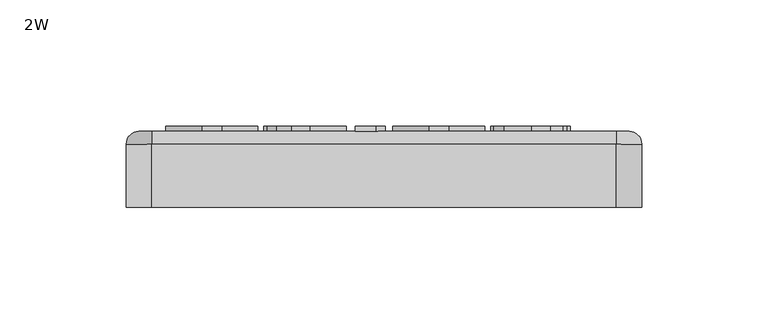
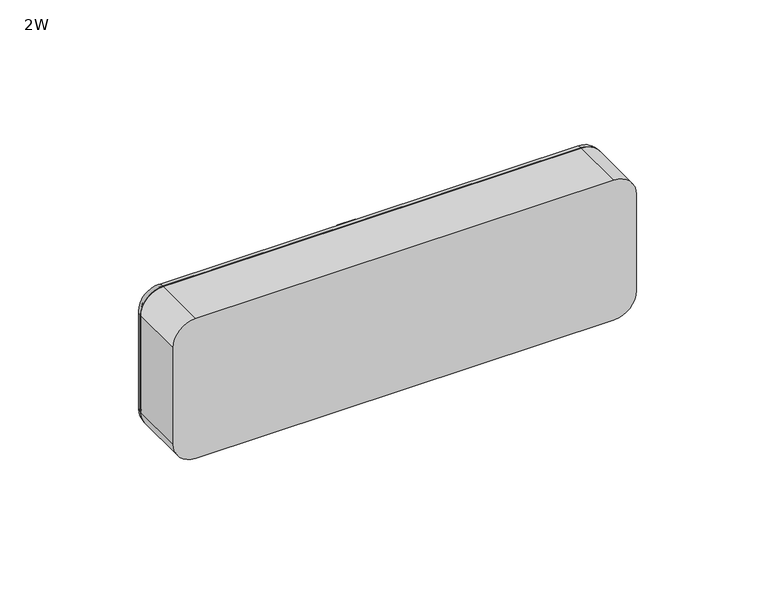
"""IFC4 building model written with IfcOpenShell, lengths in millimetres: light fixture geometry, Luminária seta indicativa parede vinculada : 2W."""

from ifc_helpers import new_model, si_unit, point, frame, frame_2d, origin, place, context, project, spatial, polyline, circle_curve, ellipse_curve, trimmed, segment, composite_curve, outline, extrude, source, transform, mapped, element, save
from ifc_brep_helpers import plane_surface, cylinder_surface, revolved_surface, advanced_brep


def light_fixture_2w_9bd4df86(model_context):
    return source(origin(), model_context, "Body", "SolidModel", [
        extrude(outline(polyline([(2523.8949331, 73.8063579), (2524.5103277, 66.4216232), (2518.9140834, 63.5369612), (2517.125593, 57.6810973), (2518.7073493, 51.7867713), (2522.4045244, 49.8059701), (2524.7170618, 50.6280988), (2526.3757425, 53.507953), (2528.0199998, 59.9119026), (2531.798907, 68.9312791), (2539.5778788, 72.5755688), (2545.0971988, 70.9024648), (2549.0107236, 66.0754637), (2550.3568992, 58.4695716), (2547.0010757, 47.5126638), (2538.049008, 43.6520245), (2538.049008, 51.0367592), (2542.2942689, 53.2627567), (2543.587559, 58.3830318), (2542.2125368, 63.9023517), (2539.847114, 65.1908341), (2537.5297688, 64.0177382), (2535.0056896, 56.7820443), (2532.2748762, 48.2867148), (2528.3661592, 43.9789529), (2522.2410603, 42.4212354), (2516.0486525, 44.2626113), (2511.7601217, 49.474234), (2510.3562528, 57.8734081), (2513.8130395, 69.1235899), (2523.8949331, 73.8063579)])), frame((0.0, 30.0, 0.0), z_axis=(0.0, 1.0, 0.0), x_axis=(0.0, 0.0, 1.0)), (0.0, 0.0, 1.0), 2.0),
        extrude(outline(polyline([(2510.9716474, 3.6513782), (2510.9716474, 11.411119), (2519.5871712, 14.4496296), (2519.5871712, 29.094097), (2510.9716474, 32.0941455), (2510.9716474, 39.9596572), (2549.7415046, 25.8055823), (2549.7415046, 17.9400706), (2510.9716474, 3.6513782)]), holes=[polyline([(2526.3565114, 16.8150524), (2540.5105862, 21.8055177), (2526.3565114, 26.7286741), (2526.3565114, 16.8150524)])]), frame((0.0, 30.0, 0.0), z_axis=(0.0, 1.0, 0.0), x_axis=(0.0, 0.0, 1.0)), (0.0, 0.0, 1.0), 2.0),
        extrude(outline(polyline([(-7.4257239, 32.0), (-0.0409892, 32.0), (-0.0409892, 30.0), (-7.4257239, 30.0), (-7.4257239, 32.0)])), frame((0.0, 0.0, 2510.9716474), z_axis=(0.0, 0.0, 1.0), x_axis=(1.0, 0.0, 0.0)), (0.0, 0.0, 1.0), 38.7698572),
        extrude(outline(polyline([(2552.8184774, 0.5744054), (2560.8186067, -3.117962), (2560.8186067, -11.1180912), (2552.8184774, -3.7333565), (2552.8184774, 0.5744054)])), frame((0.0, 30.0, 0.0), z_axis=(0.0, 1.0, 0.0), x_axis=(0.0, 0.0, 1.0)), (0.0, 0.0, 1.0), 2.0),
        extrude(outline(polyline([(2549.7415046, -14.8104586), (2549.7415046, -29.1664598), (2549.001108, -36.5704255), (2545.4289349, -42.4359049), (2539.1499873, -46.1523111), (2529.9815699, -47.4263702), (2521.7314366, -46.2340432), (2514.8851722, -42.0608989), (2511.7889683, -36.5415789), (2510.9716474, -29.5895435), (2510.9716474, -14.8104586), (2549.7415046, -14.8104586)]), holes=[polyline([(2542.9721645, -22.1951933), (2517.7409876, -22.1951933), (2517.7409876, -28.4837564), (2518.1063781, -33.5799926), (2519.6881344, -36.979086), (2523.3660784, -39.1858524), (2530.3469605, -40.0416355), (2537.1259162, -39.1858524), (2540.8182835, -36.7963907), (2542.6067739, -32.8972893), (2542.9721645, -25.983716), (2542.9721645, -22.1951933)])]), frame((0.0, 30.0, 0.0), z_axis=(0.0, 1.0, 0.0), x_axis=(0.0, 0.0, 1.0)), (0.0, 0.0, 1.0), 2.0),
        extrude(outline(polyline([(2510.9716474, -86.1962274), (2510.9716474, -78.4364866), (2519.5871712, -75.397976), (2519.5871712, -60.7535086), (2510.9716474, -57.7534601), (2510.9716474, -49.8879484), (2549.7415046, -64.0420233), (2549.7415046, -71.907535), (2510.9716474, -86.1962274)]), holes=[polyline([(2526.3565114, -73.0325531), (2540.5105862, -68.0420879), (2526.3565114, -63.1189314), (2526.3565114, -73.0325531)])]), frame((0.0, 30.0, 0.0), z_axis=(0.0, 1.0, 0.0), x_axis=(0.0, 0.0, 1.0)), (0.0, 0.0, 1.0), 2.0),
        extrude(outline(polyline([(2560.0, 95.1754319), (2560.0, 85.1754319), (2505.0, 85.1754319), (2505.0, 95.1754319), (2560.0, 95.1754319)]), holes=[polyline([(2559.0, 94.1754319), (2551.0, 94.1754319), (2551.0, 86.1754319), (2559.0, 86.1754319), (2559.0, 94.1754319)]), polyline([(2550.0, 86.1754319), (2550.0, 94.1754319), (2542.0, 94.1754319), (2542.0, 86.1754319), (2550.0, 86.1754319)]), polyline([(2541.0, 86.1754319), (2541.0, 94.1754319), (2533.0, 94.1754319), (2533.0, 86.1754319), (2541.0, 86.1754319)]), polyline([(2532.0, 86.1754319), (2532.0, 94.1754319), (2524.0, 94.1754319), (2524.0, 86.1754319), (2532.0, 86.1754319)]), polyline([(2523.0, 86.1754319), (2523.0, 94.1754319), (2515.0, 94.1754319), (2515.0, 86.1754319), (2523.0, 86.1754319)]), polyline([(2514.0, 86.1754319), (2514.0, 94.1754319), (2506.0, 94.1754319), (2506.0, 86.1754319), (2514.0, 86.1754319)])]), frame((0.0, 25.0, 0.0), z_axis=(0.0, 1.0, 0.0), x_axis=(0.0, 0.0, 1.0)), (0.0, 0.0, 1.0), 2.0),
        extrude(outline(polyline([(2560.0, 85.1754319), (2560.0, 75.1754319), (2505.0, 75.1754319), (2505.0, 85.1754319), (2560.0, 85.1754319)]), holes=[polyline([(2559.0, 84.1754319), (2551.0, 84.1754319), (2551.0, 76.1754319), (2559.0, 76.1754319), (2559.0, 84.1754319)]), polyline([(2550.0, 76.1754319), (2550.0, 84.1754319), (2542.0, 84.1754319), (2542.0, 76.1754319), (2550.0, 76.1754319)]), polyline([(2541.0, 76.1754319), (2541.0, 84.1754319), (2533.0, 84.1754319), (2533.0, 76.1754319), (2541.0, 76.1754319)]), polyline([(2532.0, 76.1754319), (2532.0, 84.1754319), (2524.0, 84.1754319), (2524.0, 76.1754319), (2532.0, 76.1754319)]), polyline([(2523.0, 76.1754319), (2523.0, 84.1754319), (2515.0, 84.1754319), (2515.0, 76.1754319), (2523.0, 76.1754319)]), polyline([(2514.0, 76.1754319), (2514.0, 84.1754319), (2506.0, 84.1754319), (2506.0, 76.1754319), (2514.0, 76.1754319)])]), frame((0.0, 25.0, 0.0), z_axis=(0.0, 1.0, 0.0), x_axis=(0.0, 0.0, 1.0)), (0.0, 0.0, 1.0), 2.0),
        extrude(outline(polyline([(2560.0, 75.1754319), (2560.0, 65.1754319), (2505.0, 65.1754319), (2505.0, 75.1754319), (2560.0, 75.1754319)]), holes=[polyline([(2559.0, 74.1754319), (2551.0, 74.1754319), (2551.0, 66.1754319), (2559.0, 66.1754319), (2559.0, 74.1754319)]), polyline([(2550.0, 66.1754319), (2550.0, 74.1754319), (2542.0, 74.1754319), (2542.0, 66.1754319), (2550.0, 66.1754319)]), polyline([(2541.0, 66.1754319), (2541.0, 74.1754319), (2533.0, 74.1754319), (2533.0, 66.1754319), (2541.0, 66.1754319)]), polyline([(2532.0, 66.1754319), (2532.0, 74.1754319), (2524.0, 74.1754319), (2524.0, 66.1754319), (2532.0, 66.1754319)]), polyline([(2523.0, 66.1754319), (2523.0, 74.1754319), (2515.0, 74.1754319), (2515.0, 66.1754319), (2523.0, 66.1754319)]), polyline([(2514.0, 66.1754319), (2514.0, 74.1754319), (2506.0, 74.1754319), (2506.0, 66.1754319), (2514.0, 66.1754319)])]), frame((0.0, 25.0, 0.0), z_axis=(0.0, 1.0, 0.0), x_axis=(0.0, 0.0, 1.0)), (0.0, 0.0, 1.0), 2.0),
        extrude(outline(polyline([(2560.0, 65.1754319), (2560.0, 55.1754319), (2505.0, 55.1754319), (2505.0, 65.1754319), (2560.0, 65.1754319)]), holes=[polyline([(2559.0, 64.1754319), (2551.0, 64.1754319), (2551.0, 56.1754319), (2559.0, 56.1754319), (2559.0, 64.1754319)]), polyline([(2550.0, 56.1754319), (2550.0, 64.1754319), (2542.0, 64.1754319), (2542.0, 56.1754319), (2550.0, 56.1754319)]), polyline([(2541.0, 56.1754319), (2541.0, 64.1754319), (2533.0, 64.1754319), (2533.0, 56.1754319), (2541.0, 56.1754319)]), polyline([(2532.0, 56.1754319), (2532.0, 64.1754319), (2524.0, 64.1754319), (2524.0, 56.1754319), (2532.0, 56.1754319)]), polyline([(2523.0, 56.1754319), (2523.0, 64.1754319), (2515.0, 64.1754319), (2515.0, 56.1754319), (2523.0, 56.1754319)]), polyline([(2514.0, 56.1754319), (2514.0, 64.1754319), (2506.0, 64.1754319), (2506.0, 56.1754319), (2514.0, 56.1754319)])]), frame((0.0, 25.0, 0.0), z_axis=(0.0, 1.0, 0.0), x_axis=(0.0, 0.0, 1.0)), (0.0, 0.0, 1.0), 2.0),
        extrude(outline(polyline([(2560.0, 55.1754319), (2560.0, 45.1754319), (2505.0, 45.1754319), (2505.0, 55.1754319), (2560.0, 55.1754319)]), holes=[polyline([(2559.0, 54.1754319), (2551.0, 54.1754319), (2551.0, 46.1754319), (2559.0, 46.1754319), (2559.0, 54.1754319)]), polyline([(2550.0, 46.1754319), (2550.0, 54.1754319), (2542.0, 54.1754319), (2542.0, 46.1754319), (2550.0, 46.1754319)]), polyline([(2541.0, 46.1754319), (2541.0, 54.1754319), (2533.0, 54.1754319), (2533.0, 46.1754319), (2541.0, 46.1754319)]), polyline([(2532.0, 46.1754319), (2532.0, 54.1754319), (2524.0, 54.1754319), (2524.0, 46.1754319), (2532.0, 46.1754319)]), polyline([(2523.0, 46.1754319), (2523.0, 54.1754319), (2515.0, 54.1754319), (2515.0, 46.1754319), (2523.0, 46.1754319)]), polyline([(2514.0, 46.1754319), (2514.0, 54.1754319), (2506.0, 54.1754319), (2506.0, 46.1754319), (2514.0, 46.1754319)])]), frame((0.0, 25.0, 0.0), z_axis=(0.0, 1.0, 0.0), x_axis=(0.0, 0.0, 1.0)), (0.0, 0.0, 1.0), 2.0),
        extrude(outline(polyline([(2560.0, 45.1754319), (2560.0, 35.1754319), (2505.0, 35.1754319), (2505.0, 45.1754319), (2560.0, 45.1754319)]), holes=[polyline([(2559.0, 44.1754319), (2551.0, 44.1754319), (2551.0, 36.1754319), (2559.0, 36.1754319), (2559.0, 44.1754319)]), polyline([(2550.0, 36.1754319), (2550.0, 44.1754319), (2542.0, 44.1754319), (2542.0, 36.1754319), (2550.0, 36.1754319)]), polyline([(2541.0, 36.1754319), (2541.0, 44.1754319), (2533.0, 44.1754319), (2533.0, 36.1754319), (2541.0, 36.1754319)]), polyline([(2532.0, 36.1754319), (2532.0, 44.1754319), (2524.0, 44.1754319), (2524.0, 36.1754319), (2532.0, 36.1754319)]), polyline([(2523.0, 36.1754319), (2523.0, 44.1754319), (2515.0, 44.1754319), (2515.0, 36.1754319), (2523.0, 36.1754319)]), polyline([(2514.0, 36.1754319), (2514.0, 44.1754319), (2506.0, 44.1754319), (2506.0, 36.1754319), (2514.0, 36.1754319)])]), frame((0.0, 25.0, 0.0), z_axis=(0.0, 1.0, 0.0), x_axis=(0.0, 0.0, 1.0)), (0.0, 0.0, 1.0), 2.0),
        extrude(outline(polyline([(2560.0, 35.1754319), (2560.0, 25.1754319), (2505.0, 25.1754319), (2505.0, 35.1754319), (2560.0, 35.1754319)]), holes=[polyline([(2559.0, 34.1754319), (2551.0, 34.1754319), (2551.0, 26.1754319), (2559.0, 26.1754319), (2559.0, 34.1754319)]), polyline([(2550.0, 26.1754319), (2550.0, 34.1754319), (2542.0, 34.1754319), (2542.0, 26.1754319), (2550.0, 26.1754319)]), polyline([(2541.0, 26.1754319), (2541.0, 34.1754319), (2533.0, 34.1754319), (2533.0, 26.1754319), (2541.0, 26.1754319)]), polyline([(2532.0, 26.1754319), (2532.0, 34.1754319), (2524.0, 34.1754319), (2524.0, 26.1754319), (2532.0, 26.1754319)]), polyline([(2523.0, 26.1754319), (2523.0, 34.1754319), (2515.0, 34.1754319), (2515.0, 26.1754319), (2523.0, 26.1754319)]), polyline([(2514.0, 26.1754319), (2514.0, 34.1754319), (2506.0, 34.1754319), (2506.0, 26.1754319), (2514.0, 26.1754319)])]), frame((0.0, 25.0, 0.0), z_axis=(0.0, 1.0, 0.0), x_axis=(0.0, 0.0, 1.0)), (0.0, 0.0, 1.0), 2.0),
        extrude(outline(polyline([(2560.0, 25.1754319), (2560.0, 15.1754319), (2505.0, 15.1754319), (2505.0, 25.1754319), (2560.0, 25.1754319)]), holes=[polyline([(2559.0, 24.1754319), (2551.0, 24.1754319), (2551.0, 16.1754319), (2559.0, 16.1754319), (2559.0, 24.1754319)]), polyline([(2550.0, 16.1754319), (2550.0, 24.1754319), (2542.0, 24.1754319), (2542.0, 16.1754319), (2550.0, 16.1754319)]), polyline([(2541.0, 16.1754319), (2541.0, 24.1754319), (2533.0, 24.1754319), (2533.0, 16.1754319), (2541.0, 16.1754319)]), polyline([(2532.0, 16.1754319), (2532.0, 24.1754319), (2524.0, 24.1754319), (2524.0, 16.1754319), (2532.0, 16.1754319)]), polyline([(2523.0, 16.1754319), (2523.0, 24.1754319), (2515.0, 24.1754319), (2515.0, 16.1754319), (2523.0, 16.1754319)]), polyline([(2514.0, 16.1754319), (2514.0, 24.1754319), (2506.0, 24.1754319), (2506.0, 16.1754319), (2514.0, 16.1754319)])]), frame((0.0, 25.0, 0.0), z_axis=(0.0, 1.0, 0.0), x_axis=(0.0, 0.0, 1.0)), (0.0, 0.0, 1.0), 2.0),
        extrude(outline(polyline([(2560.0, 15.1754319), (2560.0, 5.1754319), (2505.0, 5.1754319), (2505.0, 15.1754319), (2560.0, 15.1754319)]), holes=[polyline([(2559.0, 14.1754319), (2551.0, 14.1754319), (2551.0, 6.1754319), (2559.0, 6.1754319), (2559.0, 14.1754319)]), polyline([(2550.0, 6.1754319), (2550.0, 14.1754319), (2542.0, 14.1754319), (2542.0, 6.1754319), (2550.0, 6.1754319)]), polyline([(2541.0, 6.1754319), (2541.0, 14.1754319), (2533.0, 14.1754319), (2533.0, 6.1754319), (2541.0, 6.1754319)]), polyline([(2532.0, 6.1754319), (2532.0, 14.1754319), (2524.0, 14.1754319), (2524.0, 6.1754319), (2532.0, 6.1754319)]), polyline([(2523.0, 6.1754319), (2523.0, 14.1754319), (2515.0, 14.1754319), (2515.0, 6.1754319), (2523.0, 6.1754319)]), polyline([(2514.0, 6.1754319), (2514.0, 14.1754319), (2506.0, 14.1754319), (2506.0, 6.1754319), (2514.0, 6.1754319)])]), frame((0.0, 25.0, 0.0), z_axis=(0.0, 1.0, 0.0), x_axis=(0.0, 0.0, 1.0)), (0.0, 0.0, 1.0), 2.0),
        extrude(outline(polyline([(2560.0, 5.1754319), (2560.0, -4.8245681), (2505.0, -4.8245681), (2505.0, 5.1754319), (2560.0, 5.1754319)]), holes=[polyline([(2559.0, 4.1754319), (2551.0, 4.1754319), (2551.0, -3.8245681), (2559.0, -3.8245681), (2559.0, 4.1754319)]), polyline([(2550.0, -3.8245681), (2550.0, 4.1754319), (2542.0, 4.1754319), (2542.0, -3.8245681), (2550.0, -3.8245681)]), polyline([(2541.0, -3.8245681), (2541.0, 4.1754319), (2533.0, 4.1754319), (2533.0, -3.8245681), (2541.0, -3.8245681)]), polyline([(2532.0, -3.8245681), (2532.0, 4.1754319), (2524.0, 4.1754319), (2524.0, -3.8245681), (2532.0, -3.8245681)]), polyline([(2523.0, -3.8245681), (2523.0, 4.1754319), (2515.0, 4.1754319), (2515.0, -3.8245681), (2523.0, -3.8245681)]), polyline([(2514.0, -3.8245681), (2514.0, 4.1754319), (2506.0, 4.1754319), (2506.0, -3.8245681), (2514.0, -3.8245681)])]), frame((0.0, 25.0, 0.0), z_axis=(0.0, 1.0, 0.0), x_axis=(0.0, 0.0, 1.0)), (0.0, 0.0, 1.0), 2.0),
        extrude(outline(polyline([(2560.0, -4.8245681), (2560.0, -14.8245681), (2505.0, -14.8245681), (2505.0, -4.8245681), (2560.0, -4.8245681)]), holes=[polyline([(2559.0, -5.8245681), (2551.0, -5.8245681), (2551.0, -13.8245681), (2559.0, -13.8245681), (2559.0, -5.8245681)]), polyline([(2550.0, -13.8245681), (2550.0, -5.8245681), (2542.0, -5.8245681), (2542.0, -13.8245681), (2550.0, -13.8245681)]), polyline([(2541.0, -13.8245681), (2541.0, -5.8245681), (2533.0, -5.8245681), (2533.0, -13.8245681), (2541.0, -13.8245681)]), polyline([(2532.0, -13.8245681), (2532.0, -5.8245681), (2524.0, -5.8245681), (2524.0, -13.8245681), (2532.0, -13.8245681)]), polyline([(2523.0, -13.8245681), (2523.0, -5.8245681), (2515.0, -5.8245681), (2515.0, -13.8245681), (2523.0, -13.8245681)]), polyline([(2514.0, -13.8245681), (2514.0, -5.8245681), (2506.0, -5.8245681), (2506.0, -13.8245681), (2514.0, -13.8245681)])]), frame((0.0, 25.0, 0.0), z_axis=(0.0, 1.0, 0.0), x_axis=(0.0, 0.0, 1.0)), (0.0, 0.0, 1.0), 2.0),
        extrude(outline(polyline([(2560.0, -14.8245681), (2560.0, -24.8245681), (2505.0, -24.8245681), (2505.0, -14.8245681), (2560.0, -14.8245681)]), holes=[polyline([(2559.0, -15.8245681), (2551.0, -15.8245681), (2551.0, -23.8245681), (2559.0, -23.8245681), (2559.0, -15.8245681)]), polyline([(2550.0, -23.8245681), (2550.0, -15.8245681), (2542.0, -15.8245681), (2542.0, -23.8245681), (2550.0, -23.8245681)]), polyline([(2541.0, -23.8245681), (2541.0, -15.8245681), (2533.0, -15.8245681), (2533.0, -23.8245681), (2541.0, -23.8245681)]), polyline([(2532.0, -23.8245681), (2532.0, -15.8245681), (2524.0, -15.8245681), (2524.0, -23.8245681), (2532.0, -23.8245681)]), polyline([(2523.0, -23.8245681), (2523.0, -15.8245681), (2515.0, -15.8245681), (2515.0, -23.8245681), (2523.0, -23.8245681)]), polyline([(2514.0, -23.8245681), (2514.0, -15.8245681), (2506.0, -15.8245681), (2506.0, -23.8245681), (2514.0, -23.8245681)])]), frame((0.0, 25.0, 0.0), z_axis=(0.0, 1.0, 0.0), x_axis=(0.0, 0.0, 1.0)), (0.0, 0.0, 1.0), 2.0),
        extrude(outline(polyline([(2560.0, -24.8245681), (2560.0, -34.8245681), (2505.0, -34.8245681), (2505.0, -24.8245681), (2560.0, -24.8245681)]), holes=[polyline([(2559.0, -25.8245681), (2551.0, -25.8245681), (2551.0, -33.8245681), (2559.0, -33.8245681), (2559.0, -25.8245681)]), polyline([(2550.0, -33.8245681), (2550.0, -25.8245681), (2542.0, -25.8245681), (2542.0, -33.8245681), (2550.0, -33.8245681)]), polyline([(2541.0, -33.8245681), (2541.0, -25.8245681), (2533.0, -25.8245681), (2533.0, -33.8245681), (2541.0, -33.8245681)]), polyline([(2532.0, -33.8245681), (2532.0, -25.8245681), (2524.0, -25.8245681), (2524.0, -33.8245681), (2532.0, -33.8245681)]), polyline([(2523.0, -33.8245681), (2523.0, -25.8245681), (2515.0, -25.8245681), (2515.0, -33.8245681), (2523.0, -33.8245681)]), polyline([(2514.0, -33.8245681), (2514.0, -25.8245681), (2506.0, -25.8245681), (2506.0, -33.8245681), (2514.0, -33.8245681)])]), frame((0.0, 25.0, 0.0), z_axis=(0.0, 1.0, 0.0), x_axis=(0.0, 0.0, 1.0)), (0.0, 0.0, 1.0), 2.0),
        extrude(outline(polyline([(2560.0, -34.8245681), (2560.0, -44.8245681), (2505.0, -44.8245681), (2505.0, -34.8245681), (2560.0, -34.8245681)]), holes=[polyline([(2559.0, -35.8245681), (2551.0, -35.8245681), (2551.0, -43.8245681), (2559.0, -43.8245681), (2559.0, -35.8245681)]), polyline([(2550.0, -43.8245681), (2550.0, -35.8245681), (2542.0, -35.8245681), (2542.0, -43.8245681), (2550.0, -43.8245681)]), polyline([(2541.0, -43.8245681), (2541.0, -35.8245681), (2533.0, -35.8245681), (2533.0, -43.8245681), (2541.0, -43.8245681)]), polyline([(2532.0, -43.8245681), (2532.0, -35.8245681), (2524.0, -35.8245681), (2524.0, -43.8245681), (2532.0, -43.8245681)]), polyline([(2523.0, -43.8245681), (2523.0, -35.8245681), (2515.0, -35.8245681), (2515.0, -43.8245681), (2523.0, -43.8245681)]), polyline([(2514.0, -43.8245681), (2514.0, -35.8245681), (2506.0, -35.8245681), (2506.0, -43.8245681), (2514.0, -43.8245681)])]), frame((0.0, 25.0, 0.0), z_axis=(0.0, 1.0, 0.0), x_axis=(0.0, 0.0, 1.0)), (0.0, 0.0, 1.0), 2.0),
        extrude(outline(polyline([(2560.0, -44.8245681), (2560.0, -54.8245681), (2505.0, -54.8245681), (2505.0, -44.8245681), (2560.0, -44.8245681)]), holes=[polyline([(2559.0, -45.8245681), (2551.0, -45.8245681), (2551.0, -53.8245681), (2559.0, -53.8245681), (2559.0, -45.8245681)]), polyline([(2550.0, -53.8245681), (2550.0, -45.8245681), (2542.0, -45.8245681), (2542.0, -53.8245681), (2550.0, -53.8245681)]), polyline([(2541.0, -53.8245681), (2541.0, -45.8245681), (2533.0, -45.8245681), (2533.0, -53.8245681), (2541.0, -53.8245681)]), polyline([(2532.0, -53.8245681), (2532.0, -45.8245681), (2524.0, -45.8245681), (2524.0, -53.8245681), (2532.0, -53.8245681)]), polyline([(2523.0, -53.8245681), (2523.0, -45.8245681), (2515.0, -45.8245681), (2515.0, -53.8245681), (2523.0, -53.8245681)]), polyline([(2514.0, -53.8245681), (2514.0, -45.8245681), (2506.0, -45.8245681), (2506.0, -53.8245681), (2514.0, -53.8245681)])]), frame((0.0, 25.0, 0.0), z_axis=(0.0, 1.0, 0.0), x_axis=(0.0, 0.0, 1.0)), (0.0, 0.0, 1.0), 2.0),
        extrude(outline(polyline([(2560.0, -54.8245681), (2560.0, -64.8245681), (2505.0, -64.8245681), (2505.0, -54.8245681), (2560.0, -54.8245681)]), holes=[polyline([(2559.0, -55.8245681), (2551.0, -55.8245681), (2551.0, -63.8245681), (2559.0, -63.8245681), (2559.0, -55.8245681)]), polyline([(2550.0, -63.8245681), (2550.0, -55.8245681), (2542.0, -55.8245681), (2542.0, -63.8245681), (2550.0, -63.8245681)]), polyline([(2541.0, -63.8245681), (2541.0, -55.8245681), (2533.0, -55.8245681), (2533.0, -63.8245681), (2541.0, -63.8245681)]), polyline([(2532.0, -63.8245681), (2532.0, -55.8245681), (2524.0, -55.8245681), (2524.0, -63.8245681), (2532.0, -63.8245681)]), polyline([(2523.0, -63.8245681), (2523.0, -55.8245681), (2515.0, -55.8245681), (2515.0, -63.8245681), (2523.0, -63.8245681)]), polyline([(2514.0, -63.8245681), (2514.0, -55.8245681), (2506.0, -55.8245681), (2506.0, -63.8245681), (2514.0, -63.8245681)])]), frame((0.0, 25.0, 0.0), z_axis=(0.0, 1.0, 0.0), x_axis=(0.0, 0.0, 1.0)), (0.0, 0.0, 1.0), 2.0),
        extrude(outline(polyline([(2560.0, -64.8245681), (2560.0, -74.8245681), (2505.0, -74.8245681), (2505.0, -64.8245681), (2560.0, -64.8245681)]), holes=[polyline([(2559.0, -65.8245681), (2551.0, -65.8245681), (2551.0, -73.8245681), (2559.0, -73.8245681), (2559.0, -65.8245681)]), polyline([(2550.0, -73.8245681), (2550.0, -65.8245681), (2542.0, -65.8245681), (2542.0, -73.8245681), (2550.0, -73.8245681)]), polyline([(2541.0, -73.8245681), (2541.0, -65.8245681), (2533.0, -65.8245681), (2533.0, -73.8245681), (2541.0, -73.8245681)]), polyline([(2532.0, -73.8245681), (2532.0, -65.8245681), (2524.0, -65.8245681), (2524.0, -73.8245681), (2532.0, -73.8245681)]), polyline([(2523.0, -73.8245681), (2523.0, -65.8245681), (2515.0, -65.8245681), (2515.0, -73.8245681), (2523.0, -73.8245681)]), polyline([(2514.0, -73.8245681), (2514.0, -65.8245681), (2506.0, -65.8245681), (2506.0, -73.8245681), (2514.0, -73.8245681)])]), frame((0.0, 25.0, 0.0), z_axis=(0.0, 1.0, 0.0), x_axis=(0.0, 0.0, 1.0)), (0.0, 0.0, 1.0), 2.0),
        extrude(outline(polyline([(2560.0, -74.8245681), (2560.0, -84.8245681), (2505.0, -84.8245681), (2505.0, -74.8245681), (2560.0, -74.8245681)]), holes=[polyline([(2559.0, -75.8245681), (2551.0, -75.8245681), (2551.0, -83.8245681), (2559.0, -83.8245681), (2559.0, -75.8245681)]), polyline([(2550.0, -83.8245681), (2550.0, -75.8245681), (2542.0, -75.8245681), (2542.0, -83.8245681), (2550.0, -83.8245681)]), polyline([(2541.0, -83.8245681), (2541.0, -75.8245681), (2533.0, -75.8245681), (2533.0, -83.8245681), (2541.0, -83.8245681)]), polyline([(2532.0, -83.8245681), (2532.0, -75.8245681), (2524.0, -75.8245681), (2524.0, -83.8245681), (2532.0, -83.8245681)]), polyline([(2523.0, -83.8245681), (2523.0, -75.8245681), (2515.0, -75.8245681), (2515.0, -83.8245681), (2523.0, -83.8245681)]), polyline([(2514.0, -83.8245681), (2514.0, -75.8245681), (2506.0, -75.8245681), (2506.0, -83.8245681), (2514.0, -83.8245681)])]), frame((0.0, 25.0, 0.0), z_axis=(0.0, 1.0, 0.0), x_axis=(0.0, 0.0, 1.0)), (0.0, 0.0, 1.0), 2.0),
        extrude(outline(polyline([(2560.0, -84.8245681), (2560.0, -94.8245681), (2505.0, -94.8245681), (2505.0, -84.8245681), (2560.0, -84.8245681)]), holes=[polyline([(2559.0, -85.8245681), (2551.0, -85.8245681), (2551.0, -93.8245681), (2559.0, -93.8245681), (2559.0, -85.8245681)]), polyline([(2550.0, -93.8245681), (2550.0, -85.8245681), (2542.0, -85.8245681), (2542.0, -93.8245681), (2550.0, -93.8245681)]), polyline([(2541.0, -93.8245681), (2541.0, -85.8245681), (2533.0, -85.8245681), (2533.0, -93.8245681), (2541.0, -93.8245681)]), polyline([(2532.0, -93.8245681), (2532.0, -85.8245681), (2524.0, -85.8245681), (2524.0, -93.8245681), (2532.0, -93.8245681)]), polyline([(2523.0, -93.8245681), (2523.0, -85.8245681), (2515.0, -85.8245681), (2515.0, -93.8245681), (2523.0, -93.8245681)]), polyline([(2514.0, -93.8245681), (2514.0, -85.8245681), (2506.0, -85.8245681), (2506.0, -93.8245681), (2514.0, -93.8245681)])]), frame((0.0, 25.0, 0.0), z_axis=(0.0, 1.0, 0.0), x_axis=(0.0, 0.0, 1.0)), (0.0, 0.0, 1.0), 2.0),
        advanced_brep(
        [(-91.8245681, 29.0, 2560.0), (-96.8245681, 29.0, 2555.0), (-96.8245681, 30.0, 2555.0), (-91.8245681, 30.0, 2560.0), (-91.8245681, 25.0, 2564.0), (-100.8245681, 25.0, 2555.0), (-101.8245681, 25.0, 2555.0), (-91.8245681, 25.0, 2565.0), (92.1754319, 30.0, 2560.0), (92.1754319, 29.0, 2560.0), (92.1754319, 25.0, 2564.0), (92.1754319, 25.0, 2565.0), (97.1754319, 29.0, 2555.0), (97.1754319, 30.0, 2555.0), (101.1754319, 25.0, 2555.0), (102.1754319, 25.0, 2555.0), (97.1754319, 30.0, 2510.0), (97.1754319, 29.0, 2510.0), (101.1754319, 25.0, 2510.0), (102.1754319, 25.0, 2510.0), (92.1754319, 29.0, 2505.0), (92.1754319, 30.0, 2505.0), (92.1754319, 25.0, 2501.0), (92.1754319, 25.0, 2500.0), (-91.8245681, 30.0, 2505.0), (-91.8245681, 29.0, 2505.0), (-91.8245681, 25.0, 2501.0), (-91.8245681, 25.0, 2500.0), (-96.8245681, 29.0, 2510.0), (-96.8245681, 30.0, 2510.0), (-100.8245681, 25.0, 2510.0), (-101.8245681, 25.0, 2510.0)],
        [
            (0, 1, circle_curve(frame((-91.8245681, 29.0, 2555.0), z_axis=(0.0, -1.0, 0.0), x_axis=(-1.0, 0.0, 0.0)), 5.0)),
            (1, 2),
            (2, 3, circle_curve(frame((-91.8245681, 30.0, 2555.0), z_axis=(0.0, 1.0, 0.0), x_axis=(-1.0, 0.0, 0.0)), 5.0)),
            (3, 0),
            (4, 5, circle_curve(frame((-91.8245681, 25.0, 2555.0), z_axis=(0.0, -1.0, 0.0), x_axis=(-1.0, 0.0, 0.0)), 9.0)),
            (5, 1, circle_curve(frame((-96.8245681, 25.0, 2555.0), z_axis=(0.0, 0.0, -1.0), x_axis=(1.0, 0.0, 0.0)), 4.0)),
            (0, 4, circle_curve(frame((-91.8245681, 25.0, 2560.0), z_axis=(1.0, 0.0, 0.0), x_axis=(0.0, 0.0, -1.0)), 4.0)),
            (2, 6, circle_curve(frame((-96.8245681, 25.0, 2555.0), z_axis=(0.0, 0.0, 1.0), x_axis=(1.0, 0.0, 0.0)), 5.0)),
            (6, 7, circle_curve(frame((-91.8245681, 25.0, 2555.0), z_axis=(0.0, 1.0, 0.0), x_axis=(-1.0, 0.0, 0.0)), 10.0)),
            (7, 3, circle_curve(frame((-91.8245681, 25.0, 2560.0), z_axis=(-1.0, 0.0, 0.0), x_axis=(0.0, 0.0, -1.0)), 5.0)),
            (3, 8),
            (8, 9),
            (9, 0),
            (9, 10, circle_curve(frame((92.1754319, 25.0, 2560.0), z_axis=(1.0, 0.0, 0.0), x_axis=(0.0, 0.0, -1.0)), 4.0)),
            (10, 4),
            (7, 11),
            (11, 8, circle_curve(frame((92.1754319, 25.0, 2560.0), z_axis=(-1.0, 0.0, 0.0), x_axis=(0.0, 0.0, -1.0)), 5.0)),
            (12, 9, circle_curve(frame((92.1754319, 29.0, 2555.0), z_axis=(0.0, -1.0, 0.0), x_axis=(0.0, 0.0, 1.0)), 5.0)),
            (8, 13, circle_curve(frame((92.1754319, 30.0, 2555.0), z_axis=(0.0, 1.0, 0.0), x_axis=(0.0, 0.0, 1.0)), 5.0)),
            (13, 12),
            (14, 10, circle_curve(frame((92.1754319, 25.0, 2555.0), z_axis=(0.0, -1.0, 0.0), x_axis=(0.0, 0.0, 1.0)), 9.0)),
            (12, 14, circle_curve(frame((97.1754319, 25.0, 2555.0), z_axis=(0.0, 0.0, -1.0), x_axis=(-1.0, 0.0, 0.0)), 4.0)),
            (11, 15, circle_curve(frame((92.1754319, 25.0, 2555.0), z_axis=(0.0, 1.0, 0.0), x_axis=(0.0, 0.0, 1.0)), 10.0)),
            (15, 13, circle_curve(frame((97.1754319, 25.0, 2555.0), z_axis=(0.0, 0.0, 1.0), x_axis=(-1.0, 0.0, 0.0)), 5.0)),
            (13, 16),
            (16, 17),
            (17, 12),
            (17, 18, circle_curve(frame((97.1754319, 25.0, 2510.0), z_axis=(0.0, 0.0, -1.0), x_axis=(-1.0, 0.0, 0.0)), 4.0)),
            (18, 14),
            (15, 19),
            (19, 16, circle_curve(frame((97.1754319, 25.0, 2510.0), z_axis=(0.0, 0.0, 1.0), x_axis=(-1.0, 0.0, 0.0)), 5.0)),
            (20, 17, circle_curve(frame((92.1754319, 29.0, 2510.0), z_axis=(0.0, -1.0, 0.0), x_axis=(1.0, 0.0, 0.0)), 5.0)),
            (16, 21, circle_curve(frame((92.1754319, 30.0, 2510.0), z_axis=(0.0, 1.0, 0.0), x_axis=(1.0, 0.0, 0.0)), 5.0)),
            (21, 20),
            (22, 18, circle_curve(frame((92.1754319, 25.0, 2510.0), z_axis=(0.0, -1.0, 0.0), x_axis=(1.0, 0.0, 0.0)), 9.0)),
            (20, 22, circle_curve(frame((92.1754319, 25.0, 2505.0), z_axis=(-1.0, 0.0, 0.0), x_axis=(0.0, 0.0, 1.0)), 4.0)),
            (19, 23, circle_curve(frame((92.1754319, 25.0, 2510.0), z_axis=(0.0, 1.0, 0.0), x_axis=(1.0, 0.0, 0.0)), 10.0)),
            (23, 21, circle_curve(frame((92.1754319, 25.0, 2505.0), z_axis=(1.0, 0.0, 0.0), x_axis=(0.0, 0.0, 1.0)), 5.0)),
            (21, 24),
            (24, 25),
            (25, 20),
            (25, 26, circle_curve(frame((-91.8245681, 25.0, 2505.0), z_axis=(-1.0, 0.0, 0.0), x_axis=(0.0, 0.0, 1.0)), 4.0)),
            (26, 22),
            (23, 27),
            (27, 24, circle_curve(frame((-91.8245681, 25.0, 2505.0), z_axis=(1.0, 0.0, 0.0), x_axis=(0.0, 0.0, 1.0)), 5.0)),
            (28, 25, circle_curve(frame((-91.8245681, 29.0, 2510.0), z_axis=(0.0, -1.0, 0.0), x_axis=(0.0, 0.0, -1.0)), 5.0)),
            (24, 29, circle_curve(frame((-91.8245681, 30.0, 2510.0), z_axis=(0.0, 1.0, 0.0), x_axis=(0.0, 0.0, -1.0)), 5.0)),
            (29, 28),
            (30, 26, circle_curve(frame((-91.8245681, 25.0, 2510.0), z_axis=(0.0, -1.0, 0.0), x_axis=(0.0, 0.0, -1.0)), 9.0)),
            (28, 30, circle_curve(frame((-96.8245681, 25.0, 2510.0), z_axis=(0.0, 0.0, 1.0), x_axis=(1.0, 0.0, 0.0)), 4.0)),
            (27, 31, circle_curve(frame((-91.8245681, 25.0, 2510.0), z_axis=(0.0, 1.0, 0.0), x_axis=(0.0, 0.0, -1.0)), 10.0)),
            (31, 29, circle_curve(frame((-96.8245681, 25.0, 2510.0), z_axis=(0.0, 0.0, -1.0), x_axis=(1.0, 0.0, 0.0)), 5.0)),
            (29, 2),
            (1, 28),
            (5, 30),
            (6, 31),
        ],
        [
            revolved_surface(polyline([(-96.8245681, 30.0, 2555.0), (-96.8245681, 29.0, 2555.0)]), (-91.8245681, 25.0, 2555.0), (0.0, 1.0, 0.0)),
            revolved_surface(trimmed(ellipse_curve(frame((-96.8245681, 25.0, 2555.0), z_axis=(0.0, 0.0, 1.0), x_axis=(1.0, 0.0, 0.0)), 4.0, 4.0), [point((-96.8245681, 29.0, 2555.0))], [point((-100.8245681, 25.0, 2555.0))], True, "CARTESIAN"), (-91.8245681, 25.0, 2555.0), (0.0, 1.0, 0.0)),
            revolved_surface(trimmed(ellipse_curve(frame((-96.8245681, 25.0, 2555.0), z_axis=(0.0, 0.0, -1.0), x_axis=(1.0, 0.0, 0.0)), 5.0, 5.0), [point((-101.8245681, 25.0, 2555.0))], [point((-96.8245681, 30.0, 2555.0))], True, "CARTESIAN"), (-91.8245681, 25.0, 2555.0), (0.0, 1.0, 0.0)),
            plane_surface(frame((-91.8245681, 30.0, 2560.0), z_axis=(0.0, 0.0, -1.0), x_axis=(1.0, 0.0, 0.0))),
            revolved_surface(polyline([(92.1754319, 25.0, 2556.0), (-91.8245681, 25.0, 2556.0)]), (-91.8245681, 25.0, 2560.0), (1.0, 0.0, 0.0)),
            cylinder_surface(frame((-91.8245681, 25.0, 2560.0), z_axis=(-1.0, 0.0, 0.0), x_axis=(0.0, 0.0, -1.0)), 5.0),
            revolved_surface(polyline([(92.1754319, 30.0, 2560.0), (92.1754319, 29.0, 2560.0)]), (92.1754319, 25.0, 2555.0), (0.0, 1.0, 0.0)),
            revolved_surface(trimmed(ellipse_curve(frame((92.1754319, 25.0, 2560.0), z_axis=(1.0, 0.0, 0.0), x_axis=(0.0, 0.0, -1.0)), 4.0, 4.0), [point((92.1754319, 29.0, 2560.0))], [point((92.1754319, 25.0, 2564.0))], True, "CARTESIAN"), (92.1754319, 25.0, 2555.0), (0.0, 1.0, 0.0)),
            revolved_surface(trimmed(ellipse_curve(frame((92.1754319, 25.0, 2560.0), z_axis=(-1.0, 0.0, 0.0), x_axis=(0.0, 0.0, -1.0)), 5.0, 5.0), [point((92.1754319, 25.0, 2565.0))], [point((92.1754319, 30.0, 2560.0))], True, "CARTESIAN"), (92.1754319, 25.0, 2555.0), (0.0, 1.0, 0.0)),
            plane_surface(frame((97.1754319, 30.0, 2555.0), z_axis=(-1.0, 0.0, 0.0), x_axis=(0.0, 0.0, -1.0))),
            revolved_surface(polyline([(93.1754319, 25.0, 2510.0), (93.1754319, 25.0, 2555.0)]), (97.1754319, 25.0, 2555.0), (0.0, 0.0, -1.0)),
            cylinder_surface(frame((97.1754319, 25.0, 2555.0), z_axis=(0.0, 0.0, 1.0), x_axis=(-1.0, 0.0, 0.0)), 5.0),
            revolved_surface(polyline([(97.1754319, 30.0, 2510.0), (97.1754319, 29.0, 2510.0)]), (92.1754319, 25.0, 2510.0), (0.0, 1.0, 0.0)),
            revolved_surface(trimmed(ellipse_curve(frame((97.1754319, 25.0, 2510.0), z_axis=(0.0, 0.0, -1.0), x_axis=(-1.0, 0.0, 0.0)), 4.0, 4.0), [point((97.1754319, 29.0, 2510.0))], [point((101.1754319, 25.0, 2510.0))], True, "CARTESIAN"), (92.1754319, 25.0, 2510.0), (0.0, 1.0, 0.0)),
            revolved_surface(trimmed(ellipse_curve(frame((97.1754319, 25.0, 2510.0), z_axis=(0.0, 0.0, 1.0), x_axis=(-1.0, 0.0, 0.0)), 5.0, 5.0), [point((102.1754319, 25.0, 2510.0))], [point((97.1754319, 30.0, 2510.0))], True, "CARTESIAN"), (92.1754319, 25.0, 2510.0), (0.0, 1.0, 0.0)),
            plane_surface(frame((92.1754319, 30.0, 2505.0), z_axis=(0.0, 0.0, 1.0), x_axis=(-1.0, 0.0, 0.0))),
            revolved_surface(polyline([(-91.8245681, 25.0, 2509.0), (92.1754319, 25.0, 2509.0)]), (92.1754319, 25.0, 2505.0), (-1.0, 0.0, 0.0)),
            cylinder_surface(frame((92.1754319, 25.0, 2505.0), z_axis=(1.0, 0.0, 0.0), x_axis=(0.0, 0.0, 1.0)), 5.0),
            revolved_surface(polyline([(-91.8245681, 30.0, 2505.0), (-91.8245681, 29.0, 2505.0)]), (-91.8245681, 25.0, 2510.0), (0.0, 1.0, 0.0)),
            revolved_surface(trimmed(ellipse_curve(frame((-91.8245681, 25.0, 2505.0), z_axis=(-1.0, 0.0, 0.0), x_axis=(0.0, 0.0, 1.0)), 4.0, 4.0), [point((-91.8245681, 29.0, 2505.0))], [point((-91.8245681, 25.0, 2501.0))], True, "CARTESIAN"), (-91.8245681, 25.0, 2510.0), (0.0, 1.0, 0.0)),
            revolved_surface(trimmed(ellipse_curve(frame((-91.8245681, 25.0, 2505.0), z_axis=(1.0, 0.0, 0.0), x_axis=(0.0, 0.0, 1.0)), 5.0, 5.0), [point((-91.8245681, 25.0, 2500.0))], [point((-91.8245681, 30.0, 2505.0))], True, "CARTESIAN"), (-91.8245681, 25.0, 2510.0), (0.0, 1.0, 0.0)),
            plane_surface(frame((-96.8245681, 30.0, 2510.0), z_axis=(1.0, 0.0, 0.0), x_axis=(0.0, 0.0, 1.0))),
            revolved_surface(polyline([(-92.8245681, 25.0, 2555.0), (-92.8245681, 25.0, 2510.0)]), (-96.8245681, 25.0, 2510.0), (0.0, 0.0, 1.0)),
            plane_surface(frame((-100.8245681, 25.0, 2510.0), z_axis=(0.0, -1.0, 0.0), x_axis=(0.0, 0.0, 1.0))),
            cylinder_surface(frame((-96.8245681, 25.0, 2510.0), z_axis=(0.0, 0.0, -1.0), x_axis=(1.0, 0.0, 0.0)), 5.0),
        ],
        [
            (0, [[1, 2, 3, 4]]),
            (1, [[5, 6, -1, 7]]),
            (2, [[-3, 8, 9, 10]]),
            (3, [[-4, 11, 12, 13]]),
            (4, [[-7, -13, 14, 15]]),
            (5, [[-10, 16, 17, -11]]),
            (6, [[18, -12, 19, 20]]),
            (7, [[21, -14, -18, 22]]),
            (8, [[-19, -17, 23, 24]]),
            (9, [[-20, 25, 26, 27]]),
            (10, [[-22, -27, 28, 29]]),
            (11, [[-24, 30, 31, -25]]),
            (12, [[32, -26, 33, 34]]),
            (13, [[35, -28, -32, 36]]),
            (14, [[-33, -31, 37, 38]]),
            (15, [[-34, 39, 40, 41]]),
            (16, [[-36, -41, 42, 43]]),
            (17, [[-38, 44, 45, -39]]),
            (18, [[46, -40, 47, 48]]),
            (19, [[49, -42, -46, 50]]),
            (20, [[-47, -45, 51, 52]]),
            (21, [[-48, 53, -2, 54]]),
            (22, [[-50, -54, -6, 55]]),
            (23, [[56, -51, -44, -37, -30, -23, -16, -9], [-43, -49, -55, -5, -15, -21, -29, -35]]),
            (24, [[-52, -56, -8, -53]]),
        ],
    ),
        extrude(outline(composite_curve([segment(trimmed(circle_curve(frame_2d((2510.0, 92.1754319)), 10.0), [point((2500.0, 92.1754319))], [point((2510.0, 102.1754319))], False, "CARTESIAN"), True, "CONTINUOUS"), segment(polyline([(2510.0, 102.1754319), (2555.0, 102.1754319)]), True, "CONTINUOUS"), segment(trimmed(circle_curve(frame_2d((2555.0, 92.1754319)), 10.0), [point((2555.0, 102.1754319))], [point((2565.0, 92.1754319))], False, "CARTESIAN"), True, "CONTINUOUS"), segment(polyline([(2565.0, 92.1754319), (2565.0, -91.8245681)]), True, "CONTINUOUS"), segment(trimmed(circle_curve(frame_2d((2555.0, -91.8245681)), 10.0), [point((2565.0, -91.8245681))], [point((2555.0, -101.8245681))], False, "CARTESIAN"), True, "CONTINUOUS"), segment(polyline([(2555.0, -101.8245681), (2510.0, -101.8245681)]), True, "CONTINUOUS"), segment(trimmed(circle_curve(frame_2d((2510.0, -91.8245681)), 10.0), [point((2510.0, -101.8245681))], [point((2500.0, -91.8245681))], False, "CARTESIAN"), True, "CONTINUOUS"), segment(polyline([(2500.0, -91.8245681), (2500.0, 92.1754319)]), True, "CONTINUOUS")], self_intersect=False)), frame((0.0, 0.0, 0.0), z_axis=(0.0, 1.0, 0.0), x_axis=(0.0, 0.0, 1.0)), (0.0, 0.0, 1.0), 25.0),
    ])


if __name__ == "__main__":
    model = new_model("IFC4")
    model_context = context("Model", 3, world=origin())
    ifc_project = project(units=[si_unit("LENGTHUNIT", "METRE", prefix="MILLI")], contexts=[model_context])
    site = spatial("IfcSite", under=ifc_project)
    building = spatial("IfcBuilding", under=site)
    placement = place(None, origin())
    light_fixture_2w_shape = light_fixture_2w_9bd4df86(model_context)
    element("IfcLightFixture", 1, ObjectType="Luminária seta indicativa parede vinculada : 2W", at=placement, inside=building, context=model_context, shape_type="MappedRepresentation", body=[
        mapped(light_fixture_2w_shape, transform((0.0, 0.0, 0.0), x_axis=(1.0, 0.0, 0.0), y_axis=(0.0, 1.0, 0.0), z_axis=(0.0, 0.0, 1.0))),
    ])
    save(model, "model.ifc")
